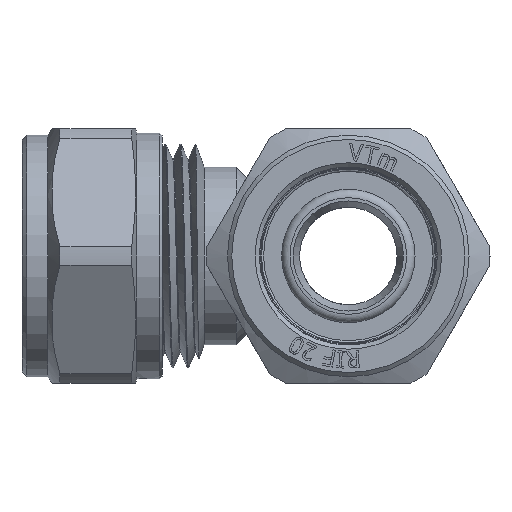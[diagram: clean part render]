
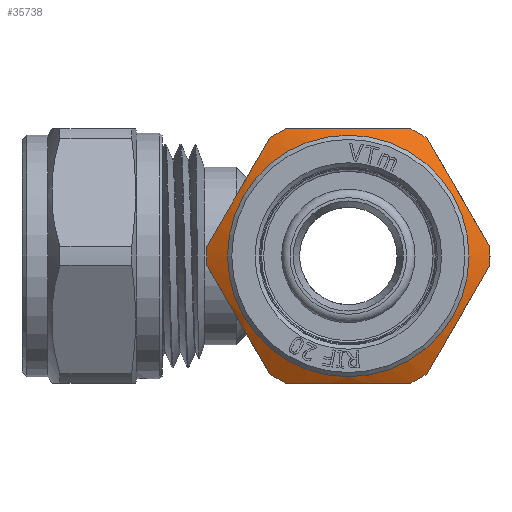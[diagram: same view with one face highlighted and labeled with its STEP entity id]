
A CAD part, left-side view. The second image highlights one B-rep face of the part: STEP entity #35738.
In plain terms, the highlighted conical face has half-angle 60 degrees and reference radius 15.484 mm.
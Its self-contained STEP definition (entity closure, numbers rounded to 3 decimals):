
#81=(
BOUNDED_CURVE()
B_SPLINE_CURVE(2,(#66967,#66968,#66969),.UNSPECIFIED.,.F.,.F.)
B_SPLINE_CURVE_WITH_KNOTS((3,3),(0.,1.489),.UNSPECIFIED.)
CURVE()
GEOMETRIC_REPRESENTATION_ITEM()
RATIONAL_B_SPLINE_CURVE((1.,1.114,1.))
REPRESENTATION_ITEM('')
);
#83=(
BOUNDED_CURVE()
B_SPLINE_CURVE(2,(#66980,#66981,#66982),.UNSPECIFIED.,.F.,.F.)
B_SPLINE_CURVE_WITH_KNOTS((3,3),(0.,1.489),.UNSPECIFIED.)
CURVE()
GEOMETRIC_REPRESENTATION_ITEM()
RATIONAL_B_SPLINE_CURVE((1.,1.114,1.))
REPRESENTATION_ITEM('')
);
#85=(
BOUNDED_CURVE()
B_SPLINE_CURVE(2,(#66993,#66994,#66995),.UNSPECIFIED.,.F.,.F.)
B_SPLINE_CURVE_WITH_KNOTS((3,3),(0.,1.489),.UNSPECIFIED.)
CURVE()
GEOMETRIC_REPRESENTATION_ITEM()
RATIONAL_B_SPLINE_CURVE((1.,1.114,1.))
REPRESENTATION_ITEM('')
);
#87=(
BOUNDED_CURVE()
B_SPLINE_CURVE(2,(#67006,#67007,#67008),.UNSPECIFIED.,.F.,.F.)
B_SPLINE_CURVE_WITH_KNOTS((3,3),(0.,1.489),.UNSPECIFIED.)
CURVE()
GEOMETRIC_REPRESENTATION_ITEM()
RATIONAL_B_SPLINE_CURVE((1.,1.114,1.))
REPRESENTATION_ITEM('')
);
#89=(
BOUNDED_CURVE()
B_SPLINE_CURVE(2,(#67019,#67020,#67021),.UNSPECIFIED.,.F.,.F.)
B_SPLINE_CURVE_WITH_KNOTS((3,3),(0.,1.489),.UNSPECIFIED.)
CURVE()
GEOMETRIC_REPRESENTATION_ITEM()
RATIONAL_B_SPLINE_CURVE((1.,1.114,1.))
REPRESENTATION_ITEM('')
);
#91=(
BOUNDED_CURVE()
B_SPLINE_CURVE(2,(#67032,#67033,#67034),.UNSPECIFIED.,.F.,.F.)
B_SPLINE_CURVE_WITH_KNOTS((3,3),(0.,1.489),.UNSPECIFIED.)
CURVE()
GEOMETRIC_REPRESENTATION_ITEM()
RATIONAL_B_SPLINE_CURVE((1.,1.114,1.))
REPRESENTATION_ITEM('')
);
#2138=LINE('',#69515,#4494);
#4494=VECTOR('',#41450,15.484);
#5261=CONICAL_SURFACE('',#37277,15.484,1.047);
#7574=FACE_OUTER_BOUND('',#9622,.T.);
#9622=EDGE_LOOP('',(#29326,#29327,#29328,#29329,#29330,#29331,#29332,#29333,
#29334,#29335,#29336,#29337,#29338,#29339,#29340,#29341,#29342));
#12975=CIRCLE('',#37278,16.717);
#12976=CIRCLE('',#37279,16.717);
#12977=CIRCLE('',#37280,16.717);
#12978=CIRCLE('',#37281,16.717);
#12979=CIRCLE('',#37282,16.717);
#12980=CIRCLE('',#37283,16.717);
#12981=CIRCLE('',#37284,14.25);
#12982=CIRCLE('',#37285,14.25);
#12983=CIRCLE('',#37286,16.717);
#15445=VERTEX_POINT('',#66964);
#15446=VERTEX_POINT('',#66966);
#15449=VERTEX_POINT('',#66977);
#15450=VERTEX_POINT('',#66979);
#15453=VERTEX_POINT('',#66990);
#15454=VERTEX_POINT('',#66992);
#15457=VERTEX_POINT('',#67003);
#15458=VERTEX_POINT('',#67005);
#15461=VERTEX_POINT('',#67016);
#15462=VERTEX_POINT('',#67018);
#15465=VERTEX_POINT('',#67029);
#15466=VERTEX_POINT('',#67031);
#15919=VERTEX_POINT('',#69512);
#15920=VERTEX_POINT('',#69514);
#15921=VERTEX_POINT('',#69516);
#20070=EDGE_CURVE('',#15446,#15445,#81,.T.);
#20074=EDGE_CURVE('',#15450,#15449,#83,.T.);
#20078=EDGE_CURVE('',#15454,#15453,#85,.T.);
#20082=EDGE_CURVE('',#15458,#15457,#87,.T.);
#20086=EDGE_CURVE('',#15462,#15461,#89,.T.);
#20090=EDGE_CURVE('',#15466,#15465,#91,.T.);
#20758=EDGE_CURVE('',#15466,#15445,#12975,.T.);
#20759=EDGE_CURVE('',#15462,#15465,#12976,.T.);
#20760=EDGE_CURVE('',#15458,#15461,#12977,.T.);
#20761=EDGE_CURVE('',#15454,#15457,#12978,.T.);
#20762=EDGE_CURVE('',#15450,#15453,#12979,.T.);
#20763=EDGE_CURVE('',#15919,#15449,#12980,.T.);
#20764=EDGE_CURVE('',#15919,#15920,#2138,.T.);
#20765=EDGE_CURVE('',#15920,#15921,#12981,.T.);
#20766=EDGE_CURVE('',#15921,#15920,#12982,.T.);
#20767=EDGE_CURVE('',#15446,#15919,#12983,.T.);
#29326=ORIENTED_EDGE('',*,*,#20070,.T.);
#29327=ORIENTED_EDGE('',*,*,#20758,.F.);
#29328=ORIENTED_EDGE('',*,*,#20090,.T.);
#29329=ORIENTED_EDGE('',*,*,#20759,.F.);
#29330=ORIENTED_EDGE('',*,*,#20086,.T.);
#29331=ORIENTED_EDGE('',*,*,#20760,.F.);
#29332=ORIENTED_EDGE('',*,*,#20082,.T.);
#29333=ORIENTED_EDGE('',*,*,#20761,.F.);
#29334=ORIENTED_EDGE('',*,*,#20078,.T.);
#29335=ORIENTED_EDGE('',*,*,#20762,.F.);
#29336=ORIENTED_EDGE('',*,*,#20074,.T.);
#29337=ORIENTED_EDGE('',*,*,#20763,.F.);
#29338=ORIENTED_EDGE('',*,*,#20764,.T.);
#29339=ORIENTED_EDGE('',*,*,#20765,.T.);
#29340=ORIENTED_EDGE('',*,*,#20766,.T.);
#29341=ORIENTED_EDGE('',*,*,#20764,.F.);
#29342=ORIENTED_EDGE('',*,*,#20767,.F.);
#35738=ADVANCED_FACE('',(#7574),#5261,.T.);
#37277=AXIS2_PLACEMENT_3D('',#69506,#41436,#41437);
#37278=AXIS2_PLACEMENT_3D('',#69507,#41438,#41439);
#37279=AXIS2_PLACEMENT_3D('',#69508,#41440,#41441);
#37280=AXIS2_PLACEMENT_3D('',#69509,#41442,#41443);
#37281=AXIS2_PLACEMENT_3D('',#69510,#41444,#41445);
#37282=AXIS2_PLACEMENT_3D('',#69511,#41446,#41447);
#37283=AXIS2_PLACEMENT_3D('',#69513,#41448,#41449);
#37284=AXIS2_PLACEMENT_3D('',#69517,#41451,#41452);
#37285=AXIS2_PLACEMENT_3D('',#69518,#41453,#41454);
#37286=AXIS2_PLACEMENT_3D('',#69519,#41455,#41456);
#41436=DIRECTION('center_axis',(1.,0.,0.));
#41437=DIRECTION('ref_axis',(0.,1.,0.));
#41438=DIRECTION('center_axis',(1.,0.,0.));
#41439=DIRECTION('ref_axis',(0.,0.,1.));
#41440=DIRECTION('center_axis',(1.,0.,0.));
#41441=DIRECTION('ref_axis',(0.,0.,1.));
#41442=DIRECTION('center_axis',(1.,0.,0.));
#41443=DIRECTION('ref_axis',(0.,0.,1.));
#41444=DIRECTION('center_axis',(1.,0.,0.));
#41445=DIRECTION('ref_axis',(0.,0.,1.));
#41446=DIRECTION('center_axis',(1.,0.,0.));
#41447=DIRECTION('ref_axis',(0.,0.,1.));
#41448=DIRECTION('center_axis',(1.,0.,0.));
#41449=DIRECTION('ref_axis',(0.,0.,1.));
#41450=DIRECTION('',(-0.5,0.866,0.));
#41451=DIRECTION('center_axis',(1.,0.,0.));
#41452=DIRECTION('ref_axis',(0.,0.,1.));
#41453=DIRECTION('center_axis',(1.,0.,0.));
#41454=DIRECTION('ref_axis',(0.,0.,1.));
#41455=DIRECTION('center_axis',(1.,0.,0.));
#41456=DIRECTION('ref_axis',(0.,0.,1.));
#66964=CARTESIAN_POINT('',(-34.032,-9.3,13.892));
#66966=CARTESIAN_POINT('',(-34.032,-16.681,1.108));
#66967=CARTESIAN_POINT('Ctrl Pts',(-34.032,-16.681,
1.108));
#66968=CARTESIAN_POINT('Ctrl Pts',(-35.913,-12.99,7.5));
#66969=CARTESIAN_POINT('Ctrl Pts',(-34.032,-9.3,
13.892));
#66977=CARTESIAN_POINT('',(-34.032,-16.681,-1.108));
#66979=CARTESIAN_POINT('',(-34.032,-9.3,-13.892));
#66980=CARTESIAN_POINT('Ctrl Pts',(-34.032,-9.3,
-13.892));
#66981=CARTESIAN_POINT('Ctrl Pts',(-35.913,-12.99,
-7.5));
#66982=CARTESIAN_POINT('Ctrl Pts',(-34.032,-16.681,
-1.108));
#66990=CARTESIAN_POINT('',(-34.032,-7.38,-15.));
#66992=CARTESIAN_POINT('',(-34.032,7.38,-15.));
#66993=CARTESIAN_POINT('Ctrl Pts',(-34.032,7.38,-15.));
#66994=CARTESIAN_POINT('Ctrl Pts',(-35.913,0.,
-15.));
#66995=CARTESIAN_POINT('Ctrl Pts',(-34.032,-7.38,
-15.));
#67003=CARTESIAN_POINT('',(-34.032,9.3,-13.892));
#67005=CARTESIAN_POINT('',(-34.032,16.681,-1.108));
#67006=CARTESIAN_POINT('Ctrl Pts',(-34.032,16.681,-1.108));
#67007=CARTESIAN_POINT('Ctrl Pts',(-35.913,12.99,-7.5));
#67008=CARTESIAN_POINT('Ctrl Pts',(-34.032,9.3,-13.892));
#67016=CARTESIAN_POINT('',(-34.032,16.681,1.108));
#67018=CARTESIAN_POINT('',(-34.032,9.3,13.892));
#67019=CARTESIAN_POINT('Ctrl Pts',(-34.032,9.3,13.892));
#67020=CARTESIAN_POINT('Ctrl Pts',(-35.913,12.99,7.5));
#67021=CARTESIAN_POINT('Ctrl Pts',(-34.032,16.681,1.108));
#67029=CARTESIAN_POINT('',(-34.032,7.38,15.));
#67031=CARTESIAN_POINT('',(-34.032,-7.38,15.));
#67032=CARTESIAN_POINT('Ctrl Pts',(-34.032,-7.38,
15.));
#67033=CARTESIAN_POINT('Ctrl Pts',(-35.913,0.,
15.));
#67034=CARTESIAN_POINT('Ctrl Pts',(-34.032,7.38,15.));
#69506=CARTESIAN_POINT('Origin',(-34.744,0.,
0.));
#69507=CARTESIAN_POINT('Origin',(-34.032,0.,
0.));
#69508=CARTESIAN_POINT('Origin',(-34.032,0.,
0.));
#69509=CARTESIAN_POINT('Origin',(-34.032,0.,
0.));
#69510=CARTESIAN_POINT('Origin',(-34.032,0.,
0.));
#69511=CARTESIAN_POINT('Origin',(-34.032,0.,
0.));
#69512=CARTESIAN_POINT('',(-34.032,-16.717,0.));
#69513=CARTESIAN_POINT('Origin',(-34.032,0.,
0.));
#69514=CARTESIAN_POINT('',(-35.457,-14.25,0.));
#69515=CARTESIAN_POINT('',(-34.744,-15.484,0.));
#69516=CARTESIAN_POINT('',(-35.457,14.25,0.));
#69517=CARTESIAN_POINT('Origin',(-35.457,0.,
0.));
#69518=CARTESIAN_POINT('Origin',(-35.457,0.,
0.));
#69519=CARTESIAN_POINT('Origin',(-34.032,0.,
0.));
